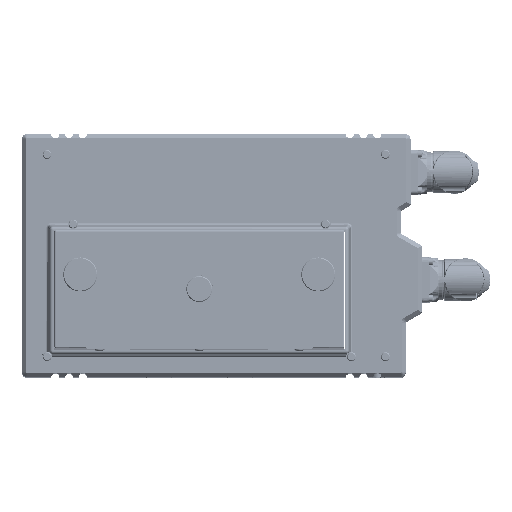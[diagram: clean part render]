
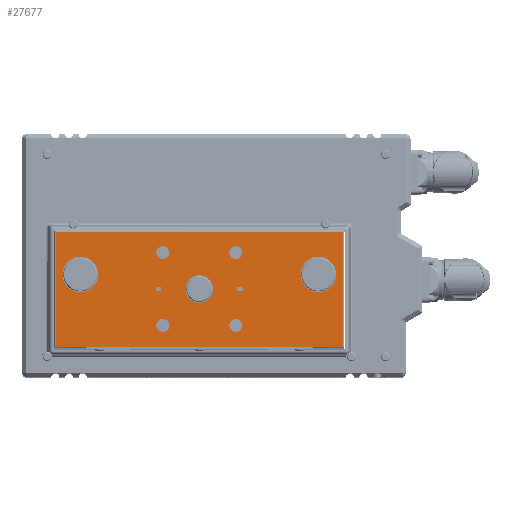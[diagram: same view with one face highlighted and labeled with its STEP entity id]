
A CAD part, top view. The second image highlights one B-rep face of the part: STEP entity #27677.
In plain terms, the highlighted planar face has unit normal (0, 0, 1).
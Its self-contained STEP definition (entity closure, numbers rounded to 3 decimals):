
#26763=CARTESIAN_POINT('',(-22.5,-22.5,19.05));
#26764=DIRECTION('',(0.,0.,-1.));
#26765=DIRECTION('',(-1.,0.,0.));
#26766=AXIS2_PLACEMENT_3D('',#26763,#26764,#26765);
#26768=CARTESIAN_POINT('',(-22.5,-22.5,19.05));
#26769=DIRECTION('',(0.,0.,-1.));
#26770=DIRECTION('',(1.,0.,0.));
#26771=AXIS2_PLACEMENT_3D('',#26768,#26769,#26770);
#26773=CARTESIAN_POINT('',(22.5,-22.5,19.05));
#26774=DIRECTION('',(0.,0.,-1.));
#26775=DIRECTION('',(-1.,0.,0.));
#26776=AXIS2_PLACEMENT_3D('',#26773,#26774,#26775);
#26778=CARTESIAN_POINT('',(22.5,-22.5,19.05));
#26779=DIRECTION('',(0.,0.,-1.));
#26780=DIRECTION('',(1.,0.,0.));
#26781=AXIS2_PLACEMENT_3D('',#26778,#26779,#26780);
#26783=CARTESIAN_POINT('',(-22.5,22.5,19.05));
#26784=DIRECTION('',(0.,0.,-1.));
#26785=DIRECTION('',(-1.,0.,0.));
#26786=AXIS2_PLACEMENT_3D('',#26783,#26784,#26785);
#26788=CARTESIAN_POINT('',(-22.5,22.5,19.05));
#26789=DIRECTION('',(0.,0.,-1.));
#26790=DIRECTION('',(1.,0.,0.));
#26791=AXIS2_PLACEMENT_3D('',#26788,#26789,#26790);
#26793=CARTESIAN_POINT('',(22.5,22.5,19.05));
#26794=DIRECTION('',(0.,0.,-1.));
#26795=DIRECTION('',(-1.,0.,0.));
#26796=AXIS2_PLACEMENT_3D('',#26793,#26794,#26795);
#26798=CARTESIAN_POINT('',(22.5,22.5,19.05));
#26799=DIRECTION('',(0.,0.,-1.));
#26800=DIRECTION('',(1.,0.,0.));
#26801=AXIS2_PLACEMENT_3D('',#26798,#26799,#26800);
#26803=CARTESIAN_POINT('',(73.5,9.001,19.05));
#26804=DIRECTION('',(0.,0.,1.));
#26805=DIRECTION('',(-1.,0.,0.));
#26806=AXIS2_PLACEMENT_3D('',#26803,#26804,#26805);
#26808=CARTESIAN_POINT('',(73.5,9.001,19.05));
#26809=DIRECTION('',(0.,0.,1.));
#26810=DIRECTION('',(1.,0.,0.));
#26811=AXIS2_PLACEMENT_3D('',#26808,#26809,#26810);
#26813=CARTESIAN_POINT('',(-73.5,9.001,19.05));
#26814=DIRECTION('',(0.,0.,1.));
#26815=DIRECTION('',(-1.,0.,0.));
#26816=AXIS2_PLACEMENT_3D('',#26813,#26814,#26815);
#26818=CARTESIAN_POINT('',(-73.5,9.001,19.05));
#26819=DIRECTION('',(0.,0.,1.));
#26820=DIRECTION('',(1.,0.,0.));
#26821=AXIS2_PLACEMENT_3D('',#26818,#26819,#26820);
#26823=DIRECTION('',(0.,1.,0.));
#26824=VECTOR('',#26823,71.);
#26825=CARTESIAN_POINT('',(88.5,-35.5,19.05));
#26826=LINE('',#26825,#26824);
#26827=DIRECTION('',(1.,0.,0.));
#26828=VECTOR('',#26827,177.);
#26829=CARTESIAN_POINT('',(-88.5,-35.5,19.05));
#26830=LINE('',#26829,#26828);
#26831=DIRECTION('',(0.,-1.,0.));
#26832=VECTOR('',#26831,71.);
#26833=CARTESIAN_POINT('',(-88.5,35.5,19.05));
#26834=LINE('',#26833,#26832);
#26835=DIRECTION('',(-1.,0.,0.));
#26836=VECTOR('',#26835,177.);
#26837=CARTESIAN_POINT('',(88.5,35.5,19.05));
#26838=LINE('',#26837,#26836);
#26839=CARTESIAN_POINT('',(0.,0.,19.05));
#26840=DIRECTION('',(0.,0.,1.));
#26841=DIRECTION('',(-1.,0.,0.));
#26842=AXIS2_PLACEMENT_3D('',#26839,#26840,#26841);
#26844=CARTESIAN_POINT('',(0.,0.,19.05));
#26845=DIRECTION('',(0.,0.,1.));
#26846=DIRECTION('',(1.,0.,0.));
#26847=AXIS2_PLACEMENT_3D('',#26844,#26845,#26846);
#26849=CARTESIAN_POINT('',(-25.,0.,19.05));
#26850=DIRECTION('',(0.,0.,-1.));
#26851=DIRECTION('',(-1.,0.,0.));
#26852=AXIS2_PLACEMENT_3D('',#26849,#26850,#26851);
#26854=CARTESIAN_POINT('',(-25.,0.,19.05));
#26855=DIRECTION('',(0.,0.,-1.));
#26856=DIRECTION('',(1.,0.,0.));
#26857=AXIS2_PLACEMENT_3D('',#26854,#26855,#26856);
#26859=CARTESIAN_POINT('',(24.5,0.,19.05));
#26860=DIRECTION('',(0.,0.,1.));
#26861=DIRECTION('',(0.,1.,0.));
#26862=AXIS2_PLACEMENT_3D('',#26859,#26860,#26861);
#26864=DIRECTION('',(1.,0.,0.));
#26865=VECTOR('',#26864,1.);
#26866=CARTESIAN_POINT('',(24.5,-1.519,19.05));
#26867=LINE('',#26866,#26865);
#26868=CARTESIAN_POINT('',(25.5,0.,19.05));
#26869=DIRECTION('',(0.,0.,1.));
#26870=DIRECTION('',(0.,-1.,0.));
#26871=AXIS2_PLACEMENT_3D('',#26868,#26869,#26870);
#26873=DIRECTION('',(-1.,0.,0.));
#26874=VECTOR('',#26873,1.);
#26875=CARTESIAN_POINT('',(25.5,1.519,19.05));
#26876=LINE('',#26875,#26874);
#27332=CARTESIAN_POINT('',(-26.5,-22.5,19.05));
#27333=CARTESIAN_POINT('',(-18.5,-22.5,19.05));
#27334=VERTEX_POINT('',#27332);
#27335=VERTEX_POINT('',#27333);
#27340=CARTESIAN_POINT('',(18.5,-22.5,19.05));
#27341=CARTESIAN_POINT('',(26.5,-22.5,19.05));
#27342=VERTEX_POINT('',#27340);
#27343=VERTEX_POINT('',#27341);
#27372=CARTESIAN_POINT('',(88.5,-35.5,19.05));
#27373=CARTESIAN_POINT('',(88.5,35.5,19.05));
#27374=VERTEX_POINT('',#27372);
#27375=VERTEX_POINT('',#27373);
#27380=CARTESIAN_POINT('',(-88.5,35.5,19.05));
#27381=VERTEX_POINT('',#27380);
#27386=CARTESIAN_POINT('',(-88.5,-35.5,19.05));
#27387=VERTEX_POINT('',#27386);
#27416=CARTESIAN_POINT('',(62.5,9.001,19.05));
#27417=CARTESIAN_POINT('',(84.5,9.001,19.05));
#27418=VERTEX_POINT('',#27416);
#27419=VERTEX_POINT('',#27417);
#27420=CARTESIAN_POINT('',(-84.5,9.001,19.05));
#27421=CARTESIAN_POINT('',(-62.5,9.001,19.05));
#27422=VERTEX_POINT('',#27420);
#27423=VERTEX_POINT('',#27421);
#27428=CARTESIAN_POINT('',(-26.5,22.5,19.05));
#27429=CARTESIAN_POINT('',(-18.5,22.5,19.05));
#27430=VERTEX_POINT('',#27428);
#27431=VERTEX_POINT('',#27429);
#27436=CARTESIAN_POINT('',(18.5,22.5,19.05));
#27437=CARTESIAN_POINT('',(26.5,22.5,19.05));
#27438=VERTEX_POINT('',#27436);
#27439=VERTEX_POINT('',#27437);
#27460=CARTESIAN_POINT('',(-8.5,0.,19.05));
#27461=CARTESIAN_POINT('',(8.5,0.,19.05));
#27462=VERTEX_POINT('',#27460);
#27463=VERTEX_POINT('',#27461);
#27476=CARTESIAN_POINT('',(-26.519,0.,19.05));
#27477=CARTESIAN_POINT('',(-23.481,0.,19.05));
#27478=VERTEX_POINT('',#27476);
#27479=VERTEX_POINT('',#27477);
#27488=CARTESIAN_POINT('',(24.5,1.519,19.05));
#27489=CARTESIAN_POINT('',(24.5,-1.519,19.05));
#27490=VERTEX_POINT('',#27488);
#27491=VERTEX_POINT('',#27489);
#27492=CARTESIAN_POINT('',(25.5,-1.519,19.05));
#27493=VERTEX_POINT('',#27492);
#27494=CARTESIAN_POINT('',(25.5,1.519,19.05));
#27495=VERTEX_POINT('',#27494);
#27605=CARTESIAN_POINT('',(0.,0.,19.05));
#27606=DIRECTION('',(0.,0.,1.));
#27607=DIRECTION('',(1.,0.,0.));
#27608=AXIS2_PLACEMENT_3D('',#27605,#27606,#27607);
#27609=PLANE('',#27608);
#27611=ORIENTED_EDGE('',*,*,#27610,.F.);
#27613=ORIENTED_EDGE('',*,*,#27612,.F.);
#27615=ORIENTED_EDGE('',*,*,#27614,.F.);
#27617=ORIENTED_EDGE('',*,*,#27616,.F.);
#27618=EDGE_LOOP('',(#27611,#27613,#27615,#27617));
#27619=FACE_OUTER_BOUND('',#27618,.F.);
#27621=ORIENTED_EDGE('',*,*,#27620,.F.);
#27623=ORIENTED_EDGE('',*,*,#27622,.F.);
#27624=EDGE_LOOP('',(#27621,#27623));
#27625=FACE_BOUND('',#27624,.F.);
#27627=ORIENTED_EDGE('',*,*,#27626,.F.);
#27629=ORIENTED_EDGE('',*,*,#27628,.F.);
#27630=EDGE_LOOP('',(#27627,#27629));
#27631=FACE_BOUND('',#27630,.F.);
#27633=ORIENTED_EDGE('',*,*,#27632,.F.);
#27635=ORIENTED_EDGE('',*,*,#27634,.F.);
#27636=EDGE_LOOP('',(#27633,#27635));
#27637=FACE_BOUND('',#27636,.F.);
#27639=ORIENTED_EDGE('',*,*,#27638,.F.);
#27641=ORIENTED_EDGE('',*,*,#27640,.F.);
#27642=EDGE_LOOP('',(#27639,#27641));
#27643=FACE_BOUND('',#27642,.F.);
#27644=ORIENTED_EDGE('',*,*,#27595,.T.);
#27646=ORIENTED_EDGE('',*,*,#27645,.T.);
#27647=EDGE_LOOP('',(#27644,#27646));
#27648=FACE_BOUND('',#27647,.F.);
#27650=ORIENTED_EDGE('',*,*,#27649,.T.);
#27652=ORIENTED_EDGE('',*,*,#27651,.T.);
#27653=EDGE_LOOP('',(#27650,#27652));
#27654=FACE_BOUND('',#27653,.F.);
#27656=ORIENTED_EDGE('',*,*,#27655,.T.);
#27658=ORIENTED_EDGE('',*,*,#27657,.T.);
#27659=EDGE_LOOP('',(#27656,#27658));
#27660=FACE_BOUND('',#27659,.F.);
#27662=ORIENTED_EDGE('',*,*,#27661,.F.);
#27664=ORIENTED_EDGE('',*,*,#27663,.F.);
#27665=EDGE_LOOP('',(#27662,#27664));
#27666=FACE_BOUND('',#27665,.F.);
#27668=ORIENTED_EDGE('',*,*,#27667,.T.);
#27670=ORIENTED_EDGE('',*,*,#27669,.T.);
#27672=ORIENTED_EDGE('',*,*,#27671,.T.);
#27674=ORIENTED_EDGE('',*,*,#27673,.T.);
#27675=EDGE_LOOP('',(#27668,#27670,#27672,#27674));
#27676=FACE_BOUND('',#27675,.F.);
#27677=ADVANCED_FACE('',(#27619,#27625,#27631,#27637,#27643,#27648,#27654,
#27660,#27666,#27676),#27609,.T.);
#26767=CIRCLE('',#26766,4.);
#26772=CIRCLE('',#26771,4.);
#26777=CIRCLE('',#26776,4.);
#26782=CIRCLE('',#26781,4.);
#26787=CIRCLE('',#26786,4.);
#26792=CIRCLE('',#26791,4.);
#26797=CIRCLE('',#26796,4.);
#26802=CIRCLE('',#26801,4.);
#26807=CIRCLE('',#26806,11.);
#26812=CIRCLE('',#26811,11.);
#26817=CIRCLE('',#26816,11.);
#26822=CIRCLE('',#26821,11.);
#26843=CIRCLE('',#26842,8.5);
#26848=CIRCLE('',#26847,8.5);
#26853=CIRCLE('',#26852,1.519);
#26858=CIRCLE('',#26857,1.519);
#26863=CIRCLE('',#26862,1.519);
#26872=CIRCLE('',#26871,1.519);
#27595=EDGE_CURVE('',#27418,#27419,#26807,.T.);
#27610=EDGE_CURVE('',#27374,#27375,#26826,.T.);
#27612=EDGE_CURVE('',#27387,#27374,#26830,.T.);
#27614=EDGE_CURVE('',#27381,#27387,#26834,.T.);
#27616=EDGE_CURVE('',#27375,#27381,#26838,.T.);
#27620=EDGE_CURVE('',#27334,#27335,#26767,.T.);
#27622=EDGE_CURVE('',#27335,#27334,#26772,.T.);
#27626=EDGE_CURVE('',#27342,#27343,#26777,.T.);
#27628=EDGE_CURVE('',#27343,#27342,#26782,.T.);
#27632=EDGE_CURVE('',#27430,#27431,#26787,.T.);
#27634=EDGE_CURVE('',#27431,#27430,#26792,.T.);
#27638=EDGE_CURVE('',#27438,#27439,#26797,.T.);
#27640=EDGE_CURVE('',#27439,#27438,#26802,.T.);
#27645=EDGE_CURVE('',#27419,#27418,#26812,.T.);
#27649=EDGE_CURVE('',#27422,#27423,#26817,.T.);
#27651=EDGE_CURVE('',#27423,#27422,#26822,.T.);
#27655=EDGE_CURVE('',#27462,#27463,#26843,.T.);
#27657=EDGE_CURVE('',#27463,#27462,#26848,.T.);
#27661=EDGE_CURVE('',#27478,#27479,#26853,.T.);
#27663=EDGE_CURVE('',#27479,#27478,#26858,.T.);
#27667=EDGE_CURVE('',#27490,#27491,#26863,.T.);
#27669=EDGE_CURVE('',#27491,#27493,#26867,.T.);
#27671=EDGE_CURVE('',#27493,#27495,#26872,.T.);
#27673=EDGE_CURVE('',#27495,#27490,#26876,.T.);
